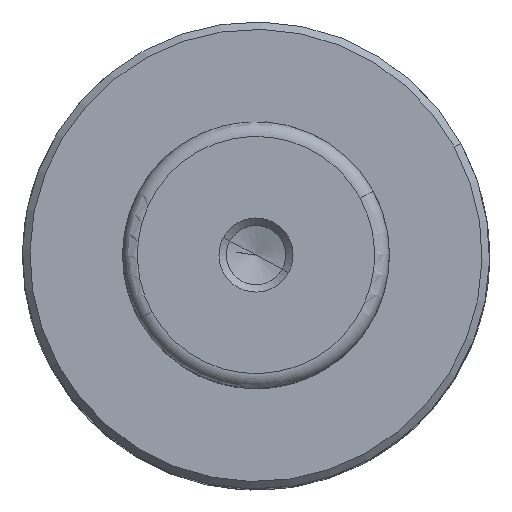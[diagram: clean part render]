
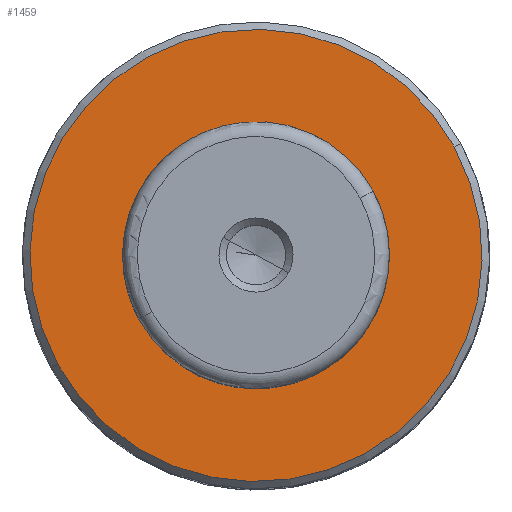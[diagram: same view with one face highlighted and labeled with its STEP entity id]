
A CAD part, top view. The second image highlights one B-rep face of the part: STEP entity #1459.
In plain terms, the highlighted planar face has unit normal (0, 0, 1).
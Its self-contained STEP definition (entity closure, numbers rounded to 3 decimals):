
#1346 = VERTEX_POINT('',#1347);
#1347 = CARTESIAN_POINT('',(26.766,14.622,85.));
#1353 = EDGE_CURVE('',#1346,#1354,#1356,.T.);
#1354 = VERTEX_POINT('',#1355);
#1355 = CARTESIAN_POINT('',(-26.766,-14.622,85.));
#1356 = CIRCLE('',#1357,30.5);
#1357 = AXIS2_PLACEMENT_3D('',#1358,#1359,#1360);
#1358 = CARTESIAN_POINT('',(0.,0.,85.));
#1359 = DIRECTION('',(0.,0.,-1.));
#1360 = DIRECTION('',(-1.,0.,0.));
#1446 = EDGE_CURVE('',#1354,#1346,#1447,.T.);
#1447 = CIRCLE('',#1448,30.5);
#1448 = AXIS2_PLACEMENT_3D('',#1449,#1450,#1451);
#1449 = CARTESIAN_POINT('',(0.,0.,85.));
#1450 = DIRECTION('',(0.,0.,-1.));
#1451 = DIRECTION('',(-1.,0.,0.));
#1459 = ADVANCED_FACE('',(#1460),#1464,.T.);
#1460 = FACE_BOUND('',#1461,.T.);
#1461 = EDGE_LOOP('',(#1462,#1463));
#1462 = ORIENTED_EDGE('',*,*,#1353,.F.);
#1463 = ORIENTED_EDGE('',*,*,#1446,.F.);
#1464 = PLANE('',#1465);
#1465 = AXIS2_PLACEMENT_3D('',#1466,#1467,#1468);
#1466 = CARTESIAN_POINT('',(30.5,0.,85.));
#1467 = DIRECTION('',(0.,0.,1.));
#1468 = DIRECTION('',(1.,0.,0.));
